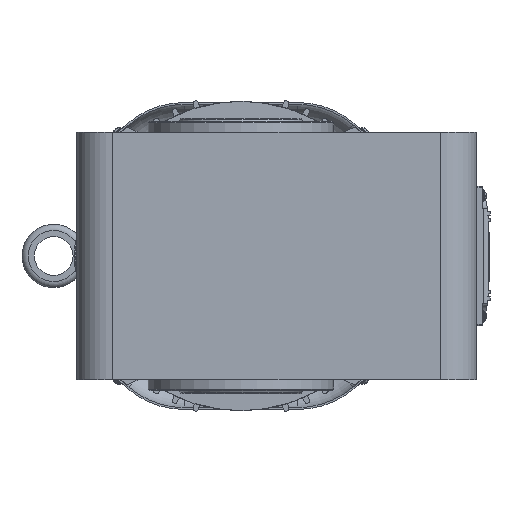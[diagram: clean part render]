
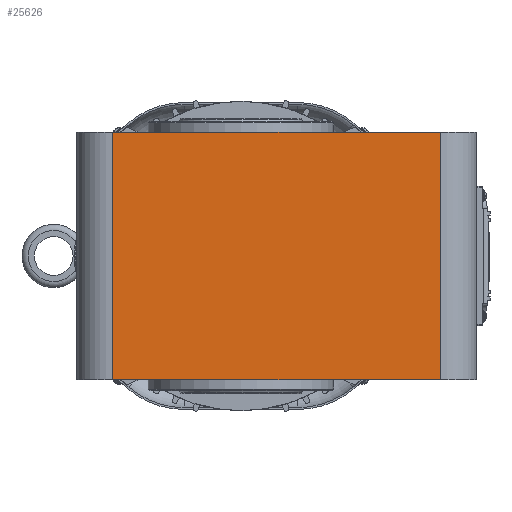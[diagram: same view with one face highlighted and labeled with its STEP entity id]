
A CAD part, left-side view. The second image highlights one B-rep face of the part: STEP entity #25626.
In plain terms, the highlighted planar face has unit normal (-1, 0, 0).
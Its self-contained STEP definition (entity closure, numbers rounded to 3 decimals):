
#821=PLANE('',#28193);
#1958=FACE_OUTER_BOUND('',#3488,.T.);
#3488=EDGE_LOOP('',(#20683,#20684,#20685,#20686));
#6846=LINE('',#44162,#8806);
#6873=LINE('',#44276,#8833);
#6874=LINE('',#44280,#8834);
#6875=LINE('',#44281,#8835);
#8806=VECTOR('',#34281,212.);
#8833=VECTOR('',#34400,160.);
#8834=VECTOR('',#34405,160.);
#8835=VECTOR('',#34406,212.);
#11499=VERTEX_POINT('',#44159);
#11500=VERTEX_POINT('',#44161);
#11541=VERTEX_POINT('',#44275);
#11542=VERTEX_POINT('',#44279);
#14721=EDGE_CURVE('',#11500,#11499,#6846,.T.);
#14776=EDGE_CURVE('',#11500,#11541,#6873,.T.);
#14778=EDGE_CURVE('',#11542,#11499,#6874,.T.);
#14779=EDGE_CURVE('',#11542,#11541,#6875,.T.);
#20683=ORIENTED_EDGE('',*,*,#14776,.F.);
#20684=ORIENTED_EDGE('',*,*,#14721,.T.);
#20685=ORIENTED_EDGE('',*,*,#14778,.F.);
#20686=ORIENTED_EDGE('',*,*,#14779,.T.);
#25626=ADVANCED_FACE('',(#1958),#821,.T.);
#28193=AXIS2_PLACEMENT_3D('',#44278,#34403,#34404);
#34281=DIRECTION('',(0.,1.,0.));
#34400=DIRECTION('',(0.,0.,-1.));
#34403=DIRECTION('center_axis',(-1.,0.,0.));
#34404=DIRECTION('ref_axis',(0.,0.,1.));
#34405=DIRECTION('',(0.,0.,1.));
#34406=DIRECTION('',(0.,-1.,0.));
#44159=CARTESIAN_POINT('',(-169.622,64.966,80.));
#44161=CARTESIAN_POINT('',(-169.622,-147.034,80.));
#44162=CARTESIAN_POINT('',(-169.622,-147.034,80.));
#44275=CARTESIAN_POINT('',(-169.622,-147.034,-80.));
#44276=CARTESIAN_POINT('',(-169.622,-147.034,80.));
#44278=CARTESIAN_POINT('Origin',(-169.622,-170.034,-80.));
#44279=CARTESIAN_POINT('',(-169.622,64.966,-80.));
#44280=CARTESIAN_POINT('',(-169.622,64.966,-80.));
#44281=CARTESIAN_POINT('',(-169.622,64.966,-80.));
